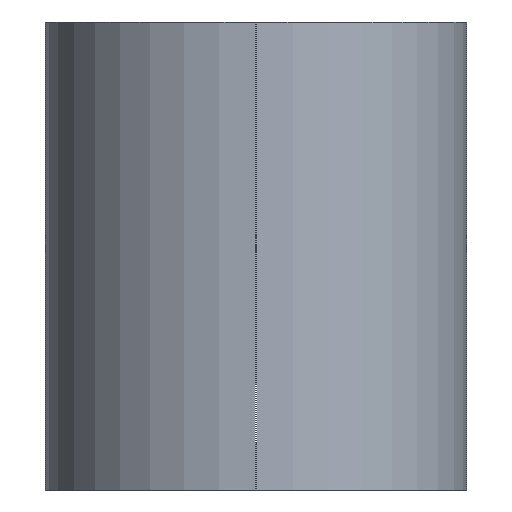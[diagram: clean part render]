
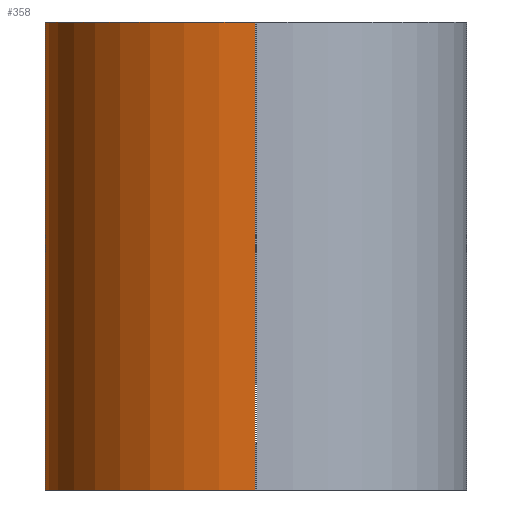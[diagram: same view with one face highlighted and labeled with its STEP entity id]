
A CAD part, front view. The second image highlights one B-rep face of the part: STEP entity #358.
In plain terms, the highlighted cylindrical face has radius 180 mm (diameter 360 mm), a partial arc.
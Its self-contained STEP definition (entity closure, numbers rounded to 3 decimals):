
#6 = EDGE_CURVE ( 'NONE', #46, #92, #667, .T. ) ;
#11 = DIRECTION ( 'NONE',  ( 0., 0., -1. ) ) ;
#46 = VERTEX_POINT ( 'NONE', #257 ) ;
#69 = DIRECTION ( 'NONE',  ( 0., 0., 1. ) ) ;
#92 = VERTEX_POINT ( 'NONE', #591 ) ;
#98 = AXIS2_PLACEMENT_3D ( 'NONE', #533, #11, #228 ) ;
#115 = DIRECTION ( 'NONE',  ( 1., 0., 0. ) ) ;
#155 = EDGE_CURVE ( 'NONE', #552, #336, #614, .T. ) ;
#164 = CIRCLE ( 'NONE', #517, 180. ) ;
#177 = CYLINDRICAL_SURFACE ( 'NONE', #98, 180. ) ;
#185 = CIRCLE ( 'NONE', #323, 180. ) ;
#228 = DIRECTION ( 'NONE',  ( -1., 0., 0. ) ) ;
#251 = EDGE_LOOP ( 'NONE', ( #355, #342, #545, #520 ) ) ;
#257 = CARTESIAN_POINT ( 'NONE',  ( -180., 0., 400. ) ) ;
#302 = EDGE_CURVE ( 'NONE', #92, #552, #164, .T. ) ;
#312 = CARTESIAN_POINT ( 'NONE',  ( -180., 0., 400. ) ) ;
#323 = AXIS2_PLACEMENT_3D ( 'NONE', #433, #69, #431 ) ;
#336 = VERTEX_POINT ( 'NONE', #481 ) ;
#342 = ORIENTED_EDGE ( 'NONE', *, *, #6, .T. ) ;
#355 = ORIENTED_EDGE ( 'NONE', *, *, #471, .F. ) ;
#358 = ADVANCED_FACE ( 'NONE', ( #584 ), #177, .T. ) ;
#375 = DIRECTION ( 'NONE',  ( 0., 0., 1. ) ) ;
#426 = CARTESIAN_POINT ( 'NONE',  ( 0., 0., 0. ) ) ;
#431 = DIRECTION ( 'NONE',  ( 1., 0., 0. ) ) ;
#433 = CARTESIAN_POINT ( 'NONE',  ( 0., 0., 400. ) ) ;
#471 = EDGE_CURVE ( 'NONE', #46, #336, #185, .T. ) ;
#481 = CARTESIAN_POINT ( 'NONE',  ( -0.5, -179.999, 400. ) ) ;
#484 = CARTESIAN_POINT ( 'NONE',  ( -0.5, -179.999, 0. ) ) ;
#517 = AXIS2_PLACEMENT_3D ( 'NONE', #426, #375, #115 ) ;
#520 = ORIENTED_EDGE ( 'NONE', *, *, #155, .T. ) ;
#533 = CARTESIAN_POINT ( 'NONE',  ( 0., 0., 400. ) ) ;
#545 = ORIENTED_EDGE ( 'NONE', *, *, #302, .T. ) ;
#552 = VERTEX_POINT ( 'NONE', #484 ) ;
#563 = DIRECTION ( 'NONE',  ( 0., 0., -1. ) ) ;
#564 = DIRECTION ( 'NONE',  ( 0., 0., 1. ) ) ;
#584 = FACE_OUTER_BOUND ( 'NONE', #251, .T. ) ;
#591 = CARTESIAN_POINT ( 'NONE',  ( -180., 0., 0. ) ) ;
#614 = LINE ( 'NONE', #679, #617 ) ;
#617 = VECTOR ( 'NONE', #564, 1000. ) ;
#664 = VECTOR ( 'NONE', #563, 1000. ) ;
#667 = LINE ( 'NONE', #312, #664 ) ;
#679 = CARTESIAN_POINT ( 'NONE',  ( -0.5, -179.999, 400. ) ) ;
